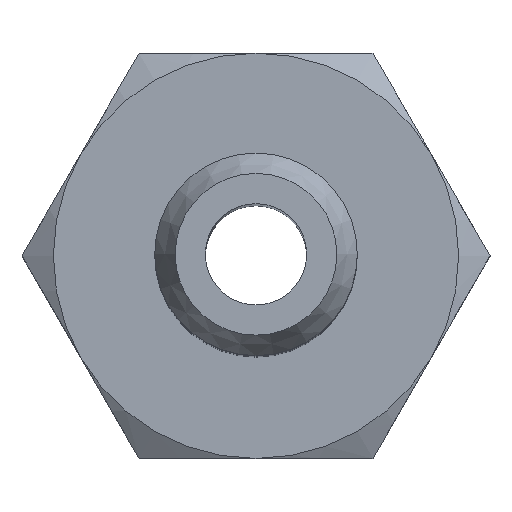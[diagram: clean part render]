
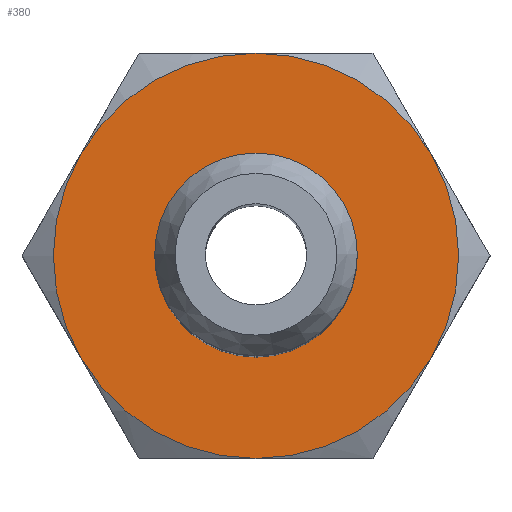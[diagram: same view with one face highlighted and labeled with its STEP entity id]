
A CAD part, top view. The second image highlights one B-rep face of the part: STEP entity #380.
In plain terms, the highlighted planar face has unit normal (0, 0, 1).
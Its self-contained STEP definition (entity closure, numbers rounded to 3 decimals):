
#380=ADVANCED_FACE('', (#390,#400), #410, .T.);
#1780=AXIS2_PLACEMENT_3D('Ax2Pl3d', #1790, #1800, #1810);
#2140=AXIS2_PLACEMENT_3D('Ax2Pl3d', #2150, #2160, #2170);
#2180=AXIS2_PLACEMENT_3D('Ax2Pl3d', #2190, #2200, #2210);
#2220=AXIS2_PLACEMENT_3D('Ax2Pl3d', #2230, #2240, #2250);
#2260=AXIS2_PLACEMENT_3D('Ax2Pl3d', #2270, #2280, #2290);
#2300=AXIS2_PLACEMENT_3D('Ax2Pl3d', #2310, #2320, #2330);
#2340=AXIS2_PLACEMENT_3D('Ax2Pl3d', #2350, #2360, #2370);
#2380=AXIS2_PLACEMENT_3D('Ax2Pl3d', #2390, #2400, #2410);
#1790=CARTESIAN_POINT('HicPkt', (5.455,0.,11.703));
#5830=CARTESIAN_POINT('', (8.919,-2.,11.703));
#5840=CARTESIAN_POINT('', (5.455,-4.,11.703));
#5950=CARTESIAN_POINT('', (1.991,2.,11.703));
#6020=CARTESIAN_POINT('', (5.455,4.,11.703));
#6090=CARTESIAN_POINT('', (8.919,2.,11.703));
#6210=CARTESIAN_POINT('', (1.991,-2.,11.703));
#2150=CARTESIAN_POINT('HicPkt', (9.455,0.,11.703));
#2190=CARTESIAN_POINT('HicPkt', (5.455,0.,11.703));
#2230=CARTESIAN_POINT('HicPkt', (5.455,0.,11.703));
#2270=CARTESIAN_POINT('HicPkt', (5.455,0.,11.703));
#2310=CARTESIAN_POINT('HicPkt', (5.455,0.,11.703));
#2350=CARTESIAN_POINT('HicPkt', (5.455,0.,11.703));
#2390=CARTESIAN_POINT('HicPkt', (5.455,0.,11.703));
#6250=CARTESIAN_POINT('', (7.455,0.,11.703));
#6490=CIRCLE('Circle', #1780, 4.);
#6510=CIRCLE('Circle', #2180, 4.);
#6520=CIRCLE('Circle', #2220, 4.);
#6530=CIRCLE('Circle', #2260, 4.);
#6540=CIRCLE('Circle', #2300, 4.);
#6550=CIRCLE('Circle', #2340, 4.);
#6560=CIRCLE('Circle', #2380, 2.);
#1800=DIRECTION('Axis', (0.,0.,-1.));
#1810=DIRECTION('RefDirection', (-1.,-0.,0.));
#2160=DIRECTION('Axis', (0.,0.,1.));
#2170=DIRECTION('RefDirection', (1.,0.,-0.));
#2200=DIRECTION('Axis', (0.,0.,-1.));
#2210=DIRECTION('RefDirection', (-1.,-0.,0.));
#2240=DIRECTION('Axis', (0.,0.,-1.));
#2250=DIRECTION('RefDirection', (-1.,-0.,0.));
#2280=DIRECTION('Axis', (0.,0.,-1.));
#2290=DIRECTION('RefDirection', (-1.,-0.,0.));
#2320=DIRECTION('Axis', (0.,0.,-1.));
#2330=DIRECTION('RefDirection', (-1.,-0.,0.));
#2360=DIRECTION('Axis', (0.,0.,-1.));
#2370=DIRECTION('RefDirection', (-1.,-0.,0.));
#2400=DIRECTION('Axis', (0.,0.,1.));
#2410=DIRECTION('RefDirection', (1.,0.,-0.));
#9110=EDGE_CURVE('', #9120, #9130, #6490, .T.);
#9850=EDGE_CURVE('', #9550, #9120, #6510, .T.);
#9860=EDGE_CURVE('', #9430, #9550, #6520, .T.);
#9870=EDGE_CURVE('', #9310, #9430, #6530, .T.);
#9880=EDGE_CURVE('', #9770, #9310, #6540, .T.);
#9890=EDGE_CURVE('', #9130, #9770, #6550, .T.);
#9900=EDGE_CURVE('', #9910, #9910, #6560, .T.);
#10970=EDGE_LOOP('Edge_loop', (#10980,#10990,#11000,#11010,#11020,
#11030));
#11040=EDGE_LOOP('Edge_loop', (#11050));
#400=FACE_BOUND('', #11040, .T.);
#390=FACE_OUTER_BOUND('Face_outer_bound', #10970, .T.);
#10980=ORIENTED_EDGE('', *, *, #9110, .F.);
#10990=ORIENTED_EDGE('', *, *, #9850, .F.);
#11000=ORIENTED_EDGE('', *, *, #9860, .F.);
#11010=ORIENTED_EDGE('', *, *, #9870, .F.);
#11020=ORIENTED_EDGE('', *, *, #9880, .F.);
#11030=ORIENTED_EDGE('', *, *, #9890, .F.);
#11050=ORIENTED_EDGE('', *, *, #9900, .F.);
#410=PLANE('Plane', #2140);
#9120=VERTEX_POINT('', #5830);
#9130=VERTEX_POINT('', #5840);
#9310=VERTEX_POINT('', #5950);
#9430=VERTEX_POINT('', #6020);
#9550=VERTEX_POINT('', #6090);
#9770=VERTEX_POINT('', #6210);
#9910=VERTEX_POINT('', #6250);
